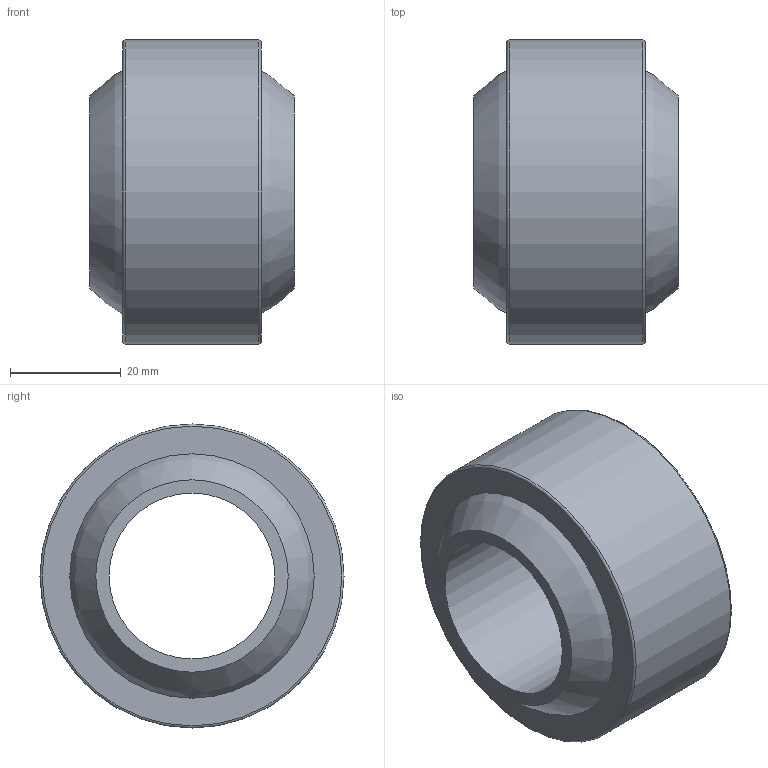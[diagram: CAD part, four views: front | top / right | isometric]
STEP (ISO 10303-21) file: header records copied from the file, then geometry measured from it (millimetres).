
FILE_DESCRIPTION( ( 'STEP AP203' ), '1' );
FILE_NAME( 'C:/Temp/Ganter_Step_05_03_2020/data/3_6/gn_648_8/gn_648_8_w/Ball joint GN 648.8-30-55-W.stp', '2020-03-12T14:14:33', ( 'License CC BY-ND 4.0' ), ( 'CADENAS' ), ' ', 'PARTsolutions', ' ' );
FILE_SCHEMA( ( 'CONFIG_CONTROL_DESIGN' ) );
Length unit declared in the file: millimetre
Products named in the file (3): Ball joint GN 648.8-30-55-W; _Ball joint GN 648.8-30-55-W-2; _Ball joint GN 648.8-30-55-W-1
Assembly tree (2 placements, depth 2):
  Ball joint GN 648.8-30-55-W
    _Ball joint GN 648.8-30-55-W-2
    _Ball joint GN 648.8-30-55-W-1
Bounding box: 37 x 55 x 55 mm (x, y, z)
Volume: 48381.8 mm3; surface area: 19811.4 mm2
Topology: 2 solids, 2 shells, 10 faces, 16 edges, 10 vertices
Faces by surface type: plane 4, sphere 2, torus 2, cylinder 2
Full cylindrical faces by diameter (mm): 30 x1, 55 x1
Entity records: 320 total; most frequent: DIRECTION 46, CARTESIAN_POINT 33, AXIS2_PLACEMENT_3D 23, EDGE_LOOP 20, ORIENTED_EDGE 20, FACE_OUTER_BOUND 16, CC_DESIGN_PERSON_AND_ORGANIZATION_ASSIGNMENT 13, ADVANCED_FACE 10
